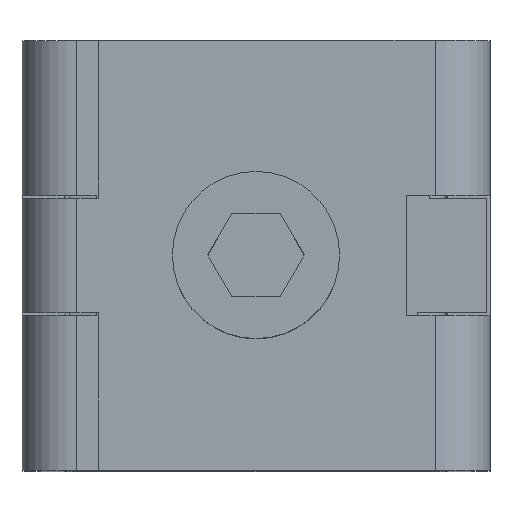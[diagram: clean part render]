
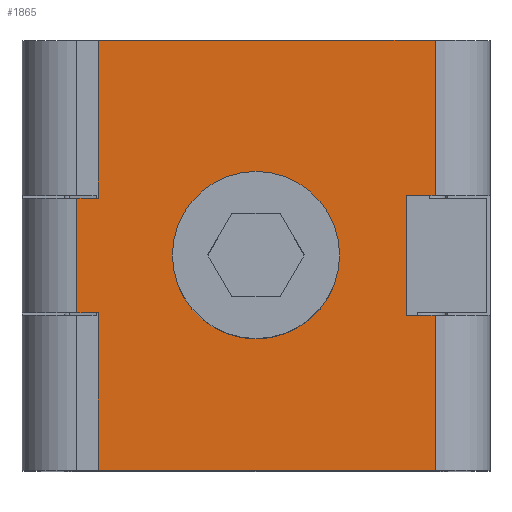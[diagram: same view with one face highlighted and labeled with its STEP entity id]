
A CAD part, top view. The second image highlights one B-rep face of the part: STEP entity #1865.
In plain terms, the highlighted planar face has unit normal (0, 0, 1).
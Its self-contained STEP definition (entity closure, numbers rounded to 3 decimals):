
#329=DIRECTION('',(-1.,0.,0.));
#330=VECTOR('',#329,14.1);
#331=CARTESIAN_POINT('',(29.5,-18.,42.6));
#332=LINE('',#331,#330);
#512=CARTESIAN_POINT('',(22.,-9.,42.6));
#513=DIRECTION('',(0.,0.,-1.));
#514=DIRECTION('',(1.,0.,0.));
#515=AXIS2_PLACEMENT_3D('',#512,#513,#514);
#517=CARTESIAN_POINT('',(22.,-9.,42.6));
#518=DIRECTION('',(0.,0.,-1.));
#519=DIRECTION('',(-1.,0.,0.));
#520=AXIS2_PLACEMENT_3D('',#517,#518,#519);
#522=DIRECTION('',(-1.,0.,0.));
#523=VECTOR('',#522,1.2);
#524=CARTESIAN_POINT('',(29.5,-11.5,42.6));
#525=LINE('',#524,#523);
#526=DIRECTION('',(1.,0.,0.));
#527=VECTOR('',#526,0.9);
#528=CARTESIAN_POINT('',(14.5,-11.4,42.6));
#529=LINE('',#528,#527);
#530=DIRECTION('',(-1.,0.,0.));
#531=VECTOR('',#530,14.1);
#532=CARTESIAN_POINT('',(29.5,0.,42.6));
#533=LINE('',#532,#531);
#538=DIRECTION('',(0.,-1.,0.));
#539=VECTOR('',#538,6.5);
#540=CARTESIAN_POINT('',(29.5,-11.5,42.6));
#541=LINE('',#540,#539);
#571=DIRECTION('',(-1.,0.,0.));
#572=VECTOR('',#571,1.2);
#573=CARTESIAN_POINT('',(29.5,-6.5,42.6));
#574=LINE('',#573,#572);
#604=DIRECTION('',(0.,-1.,0.));
#605=VECTOR('',#604,5.);
#606=CARTESIAN_POINT('',(28.3,-6.5,42.6));
#607=LINE('',#606,#605);
#608=DIRECTION('',(0.,-1.,0.));
#609=VECTOR('',#608,6.5);
#610=CARTESIAN_POINT('',(29.5,0.,42.6));
#611=LINE('',#610,#609);
#682=DIRECTION('',(0.,1.,0.));
#683=VECTOR('',#682,6.6);
#684=CARTESIAN_POINT('',(15.4,-18.,42.6));
#685=LINE('',#684,#683);
#749=DIRECTION('',(1.,0.,0.));
#750=VECTOR('',#749,0.9);
#751=CARTESIAN_POINT('',(14.5,-6.6,42.6));
#752=LINE('',#751,#750);
#822=DIRECTION('',(0.,1.,0.));
#823=VECTOR('',#822,6.6);
#824=CARTESIAN_POINT('',(15.4,-6.6,42.6));
#825=LINE('',#824,#823);
#826=DIRECTION('',(0.,1.,0.));
#827=VECTOR('',#826,4.8);
#828=CARTESIAN_POINT('',(14.5,-11.4,42.6));
#829=LINE('',#828,#827);
#888=CARTESIAN_POINT('',(15.4,-11.4,42.6));
#889=VERTEX_POINT('',#888);
#890=CARTESIAN_POINT('',(14.5,-11.4,42.6));
#891=VERTEX_POINT('',#890);
#894=CARTESIAN_POINT('',(15.4,-18.,42.6));
#895=VERTEX_POINT('',#894);
#982=CARTESIAN_POINT('',(29.5,0.,42.6));
#983=CARTESIAN_POINT('',(29.5,-6.5,42.6));
#984=VERTEX_POINT('',#982);
#985=VERTEX_POINT('',#983);
#1028=CARTESIAN_POINT('',(29.5,-11.5,42.6));
#1029=CARTESIAN_POINT('',(28.3,-11.5,42.6));
#1030=VERTEX_POINT('',#1028);
#1031=VERTEX_POINT('',#1029);
#1032=CARTESIAN_POINT('',(28.3,-6.5,42.6));
#1033=VERTEX_POINT('',#1032);
#1034=CARTESIAN_POINT('',(15.4,0.,42.6));
#1035=VERTEX_POINT('',#1034);
#1036=CARTESIAN_POINT('',(15.4,-6.6,42.6));
#1037=VERTEX_POINT('',#1036);
#1038=CARTESIAN_POINT('',(14.5,-6.6,42.6));
#1039=VERTEX_POINT('',#1038);
#1040=CARTESIAN_POINT('',(29.5,-18.,42.6));
#1041=VERTEX_POINT('',#1040);
#1134=CARTESIAN_POINT('',(18.5,-9.,42.6));
#1136=VERTEX_POINT('',#1134);
#1138=CARTESIAN_POINT('',(25.5,-9.,42.6));
#1140=VERTEX_POINT('',#1138);
#1833=CARTESIAN_POINT('',(11.,-18.,42.6));
#1834=DIRECTION('',(0.,0.,1.));
#1835=DIRECTION('',(1.,0.,0.));
#1836=AXIS2_PLACEMENT_3D('',#1833,#1834,#1835);
#1837=PLANE('',#1836);
#1838=ORIENTED_EDGE('',*,*,#1763,.F.);
#1840=ORIENTED_EDGE('',*,*,#1839,.T.);
#1841=ORIENTED_EDGE('',*,*,#1587,.T.);
#1843=ORIENTED_EDGE('',*,*,#1842,.T.);
#1845=ORIENTED_EDGE('',*,*,#1844,.F.);
#1847=ORIENTED_EDGE('',*,*,#1846,.T.);
#1849=ORIENTED_EDGE('',*,*,#1848,.T.);
#1851=ORIENTED_EDGE('',*,*,#1850,.T.);
#1852=ORIENTED_EDGE('',*,*,#1244,.F.);
#1854=ORIENTED_EDGE('',*,*,#1853,.T.);
#1856=ORIENTED_EDGE('',*,*,#1855,.T.);
#1858=ORIENTED_EDGE('',*,*,#1857,.T.);
#1859=EDGE_LOOP('',(#1838,#1840,#1841,#1843,#1845,#1847,#1849,#1851,#1852,#1854,
#1856,#1858));
#1860=FACE_OUTER_BOUND('',#1859,.F.);
#1861=ORIENTED_EDGE('',*,*,#1813,.F.);
#1862=ORIENTED_EDGE('',*,*,#1827,.F.);
#1863=EDGE_LOOP('',(#1861,#1862));
#1864=FACE_BOUND('',#1863,.F.);
#1865=ADVANCED_FACE('',(#1860,#1864),#1837,.T.);
#516=CIRCLE('',#515,3.5);
#521=CIRCLE('',#520,3.5);
#1244=EDGE_CURVE('',#984,#1035,#533,.T.);
#1587=EDGE_CURVE('',#1041,#895,#332,.T.);
#1763=EDGE_CURVE('',#1030,#1031,#525,.T.);
#1813=EDGE_CURVE('',#1140,#1136,#516,.T.);
#1827=EDGE_CURVE('',#1136,#1140,#521,.T.);
#1839=EDGE_CURVE('',#1030,#1041,#541,.T.);
#1842=EDGE_CURVE('',#895,#889,#685,.T.);
#1844=EDGE_CURVE('',#891,#889,#529,.T.);
#1846=EDGE_CURVE('',#891,#1039,#829,.T.);
#1848=EDGE_CURVE('',#1039,#1037,#752,.T.);
#1850=EDGE_CURVE('',#1037,#1035,#825,.T.);
#1853=EDGE_CURVE('',#984,#985,#611,.T.);
#1855=EDGE_CURVE('',#985,#1033,#574,.T.);
#1857=EDGE_CURVE('',#1033,#1031,#607,.T.);
